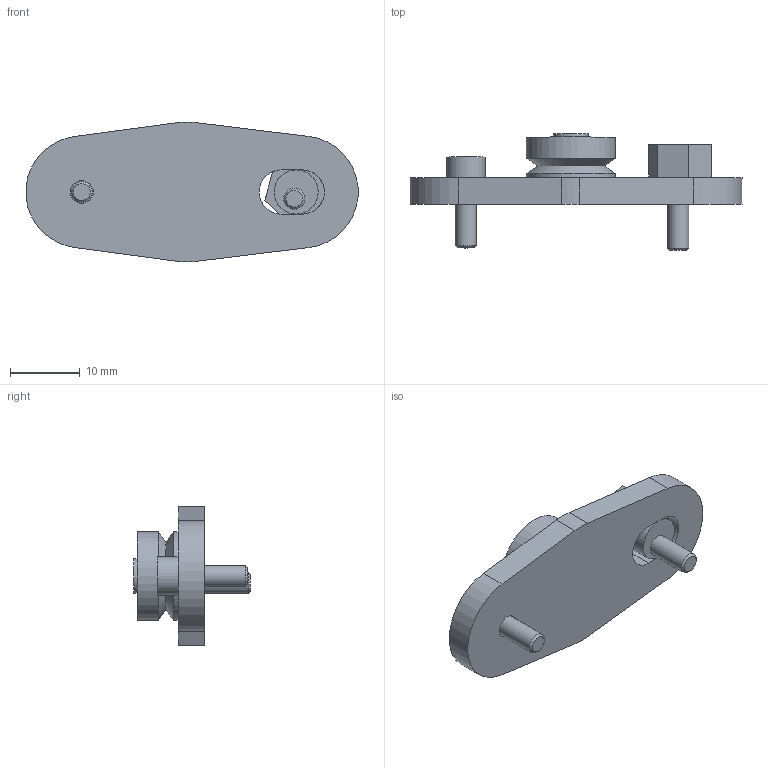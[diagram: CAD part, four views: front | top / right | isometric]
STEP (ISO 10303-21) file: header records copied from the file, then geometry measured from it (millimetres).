
FILE_DESCRIPTION( ( 'STEP AP203' ), '1' );
FILE_NAME( 'p:/temp/worker_321/temp/exporttempdir_6044_291_XsRgT/format_0/RBHJ13ENS.stp', '2022-06-02T04:31:14', ( 'License CC BY-ND 4.0' ), ( 'CADENAS' ), ' ', 'PARTsolutions', ' ' );
FILE_SCHEMA( ( 'CONFIG_CONTROL_DESIGN' ) );
Length unit declared in the file: millimetre
Products named in the file (1): _RBHJ13ENS
Bounding box: 47.44 x 16.7 x 19.99 mm (x, y, z)
Volume: 3897.6 mm3; surface area: 2842.1 mm2
Topology: 1 solids, 1 shells, 64 faces, 153 edges, 100 vertices
Faces by surface type: plane 45, cylinder 15, cone 4
Full cylindrical faces by diameter (mm): 3 x2, 3.3 x1, 5 x1, 5.5 x2, 6.3 x1, 12.7 x2
Entity records: 1806 total; most frequent: DIRECTION 304, CARTESIAN_POINT 299, ORIENTED_EDGE 274, EDGE_CURVE 137, AXIS2_PLACEMENT_3D 102, LINE 100, VECTOR 100, VERTEX_POINT 97
